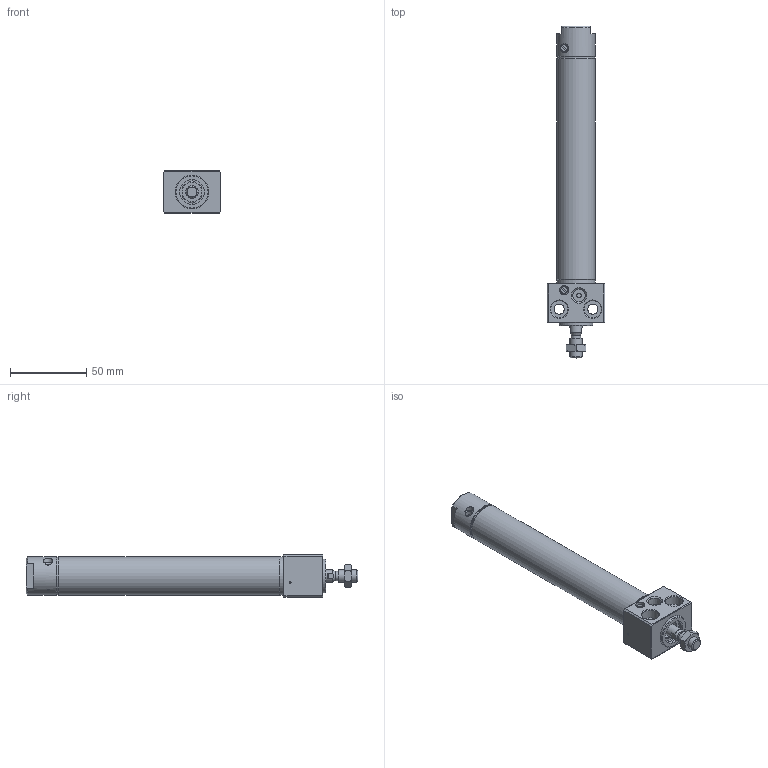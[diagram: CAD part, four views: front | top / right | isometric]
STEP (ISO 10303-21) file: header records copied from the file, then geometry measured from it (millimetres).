
FILE_DESCRIPTION((''),'2;1');
FILE_NAME('I:\3D電子目錄\氣缸\DBS\DBS\DBS20x100-C.stp','2007-10-08T08:30:21',('Administrator'),(''),'Autodesk Inventor 2008','Autodesk Inventor 2008','');
FILE_SCHEMA(('AUTOMOTIVE_DESIGN { 1 0 10303 214 1 1 1 1 }'));
Length unit declared in the file: millimetre
Products named in the file (1): DBS20x100-C
Bounding box: 38 x 217.6 x 28 mm (x, y, z)
Volume: 64304.5 mm3; surface area: 37363.9 mm2
Topology: 8 solids, 8 shells, 206 faces, 422 edges, 260 vertices
Faces by surface type: plane 91, cone 50, cylinder 49, bspline 13, torus 3
Full cylindrical faces by diameter (mm): 1.2 x1, 1.9 x2, 3 x3, 3.3 x2, 4.6 x2, 5 x3, 6 x4, 8 x3, 8.5 x1, 10 x1, 10.5 x2, 12 x3, 14.5 x2, 16 x2, 17 x1, 18 x2, 20 x1, 20.2 x2, 22 x1, 22.2 x6, 25 x4
Entity records: 5331 total; most frequent: CARTESIAN_POINT 1411, DIRECTION 818, ORIENTED_EDGE 632, AXIS2_PLACEMENT_3D 362, EDGE_LOOP 351, EDGE_CURVE 316, VERTEX_POINT 245, FACE_OUTER_BOUND 206
